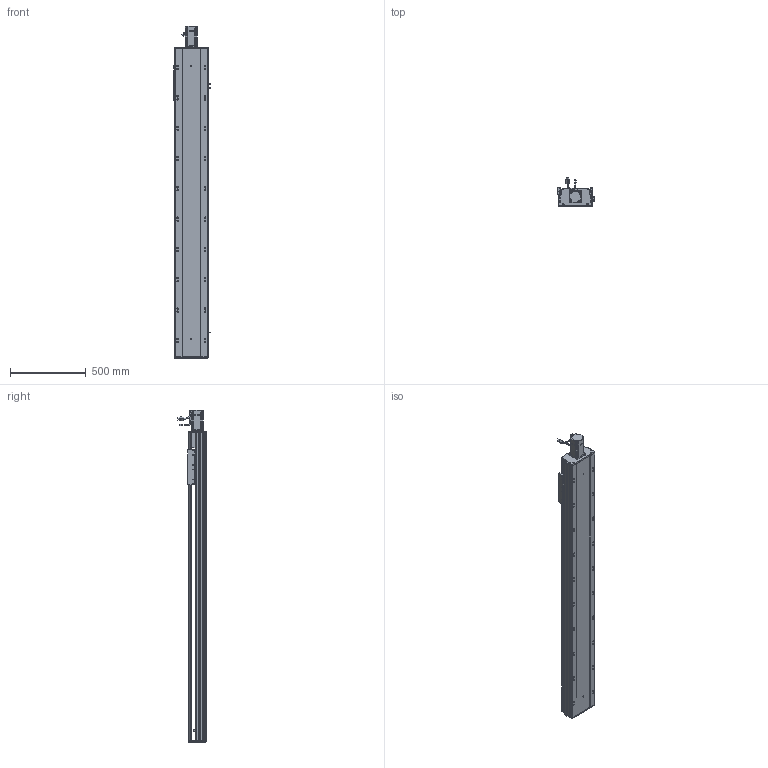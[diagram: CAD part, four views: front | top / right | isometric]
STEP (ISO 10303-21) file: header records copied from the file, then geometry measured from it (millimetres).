
FILE_DESCRIPTION (( 'STEP AP203' ), '1' );
FILE_NAME ('RY220-L2525-800-MK-邧嶺.SLDASM_1600.step', '2022-08-06T08:58:07', ( '' ), ( '' ), 'SwSTEP 2.0', 'SolidWorks 2016', '' );
FILE_SCHEMA (( 'CONFIG_CONTROL_DESIGN' ));
Length unit declared in the file: millimetre
Products named in the file (12): RY220电机支撑座FK20（PCD90M6）; 滅袉蝶18-12; RY220半封闭25-32螺母铝滑块; RY220綴裔啣; RY220-L2525-800-MK-邧嶺.SLDASM_1600; RY220-800-奻裔啣-MK_1600; 覜茼ん672; 滅袉蝶18-15; RY220菁釱MK-800-邧嶺_1600; 怢湛750W_ECMA-CX0807ES; RY220ヶ裔啣; RY220-俋离672覜茼んえ
Assembly tree (15 placements, depth 2):
  RY220-L2525-800-MK-邧嶺.SLDASM_1600
    RY220菁釱MK-800-邧嶺_1600
    RY220电机支撑座FK20（PCD90M6）
    怢湛750W_ECMA-CX0807ES
    滅袉蝶18-12  x2
    RY220ヶ裔啣
    RY220綴裔啣
    覜茼ん672  x3
    RY220半封闭25-32螺母铝滑块
    RY220-800-奻裔啣-MK_1600
    RY220-俋离672覜茼んえ
    滅袉蝶18-15  x2
Bounding box: 238.7 x 187.27 x 2190.3 mm (x, y, z)
Volume: 16433846.5 mm3; surface area: 4761068.1 mm2
Topology: 16 solids, 16 shells, 2356 faces, 6534 edges, 4102 vertices
Faces by surface type: cylinder 1086, plane 915, cone 293, bspline 36, sphere 16, torus 10
Entity records: 77496 total; most frequent: CARTESIAN_POINT 21879, ORIENTED_EDGE 11520, DIRECTION 10995, EDGE_CURVE 5760, AXIS2_PLACEMENT_3D 3901, VERTEX_POINT 3758, VECTOR 3193, LINE 3193
